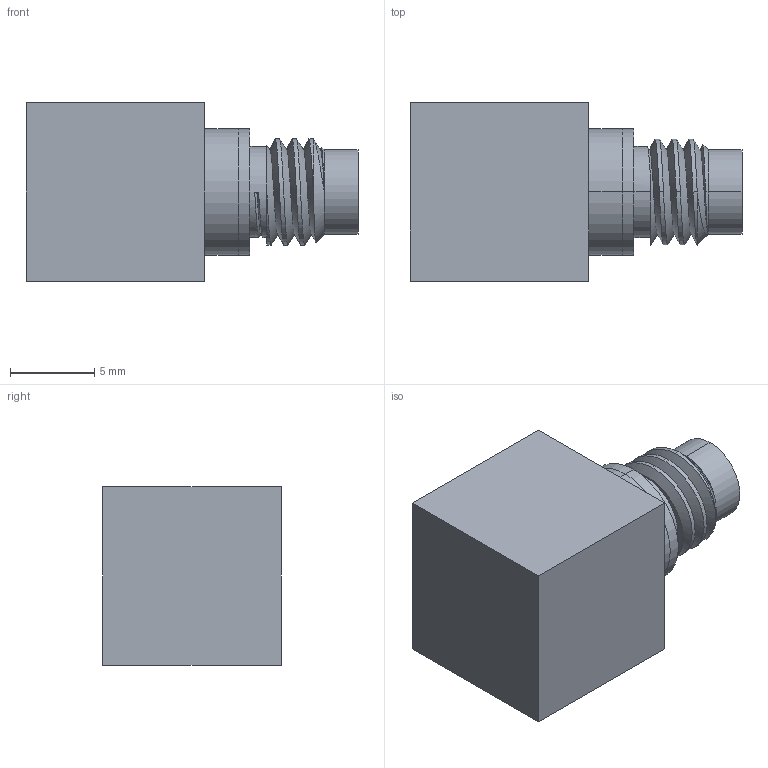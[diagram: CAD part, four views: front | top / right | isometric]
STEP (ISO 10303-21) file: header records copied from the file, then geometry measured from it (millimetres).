
FILE_DESCRIPTION (( 'STEP AP203' ), '1' );
FILE_NAME ('A271F10.STEP', '2019-03-26T06:50:28', ( 'Sky123.Org' ), ( 'Sky123.Org' ), 'SwSTEP 2.0', 'SolidWorks 2013', '' );
FILE_SCHEMA (( 'CONFIG_CONTROL_DESIGN' ));
Length unit declared in the file: millimetre
Products named in the file (3): 脣釱; A271F10; 假蚾釱
Assembly tree (2 placements, depth 2):
  A271F10
    假蚾釱
    脣釱
Bounding box: 19.69 x 10.6 x 10.6 mm (x, y, z)
Volume: 1244 mm3; surface area: 1265.4 mm2
Topology: 2 solids, 2 shells, 50 faces, 122 edges, 80 vertices
Faces by surface type: cylinder 26, plane 20, cone 2, bspline 2
Entity records: 2385 total; most frequent: CARTESIAN_POINT 933, DIRECTION 246, ORIENTED_EDGE 244, EDGE_CURVE 122, AXIS2_PLACEMENT_3D 96, VERTEX_POINT 80, EDGE_LOOP 56, LINE 54
